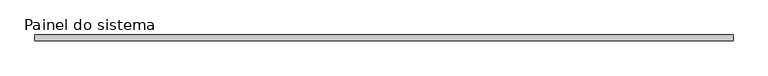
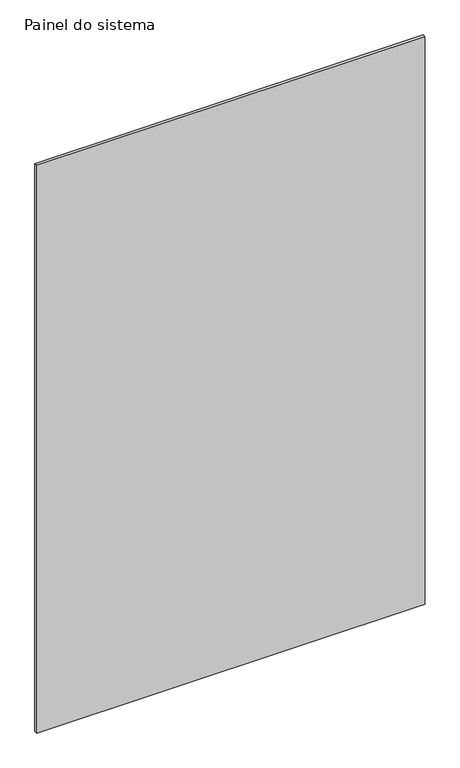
"""IFC4 building model written with IfcOpenShell, lengths in millimetres: plate geometry, Painel do sistema : Gradil Alambrado."""

from ifc_helpers import new_model, si_unit, origin, origin_with_axes, place, context, project, spatial, polyline, outline, extrude, source, transform, mapped, element, save


def painel_do_sistema_4e286993(model_context):
    return source(origin(), model_context, "Body", "SweptSolid", [
        extrude(outline(polyline([(1470.0000002, -12.5), (-1470.0000002, -12.5), (-1470.0000002, 12.5), (1470.0000002, 12.5), (1470.0000002, -12.5)])), origin_with_axes(), (0.0, 0.0, 1.0), 4540.0),
    ])


if __name__ == "__main__":
    model = new_model("IFC4")
    model_context = context("Model", 3, world=origin())
    ifc_project = project(units=[si_unit("LENGTHUNIT", "METRE", prefix="MILLI")], contexts=[model_context])
    site = spatial("IfcSite", under=ifc_project)
    building = spatial("IfcBuilding", under=site)
    placement = place(None, origin())
    painel_do_sistema_shape = painel_do_sistema_4e286993(model_context)
    element("IfcPlate", 1, ObjectType="Painel do sistema : Gradil Alambrado", at=placement, inside=building, context=model_context, shape_type="MappedRepresentation", body=[
        mapped(painel_do_sistema_shape, transform((0.0, 0.0, 0.0), x_axis=(1.0, 0.0, 0.0), y_axis=(0.0, 1.0, 0.0), z_axis=(0.0, 0.0, 1.0))),
    ])
    save(model, "model.ifc")
